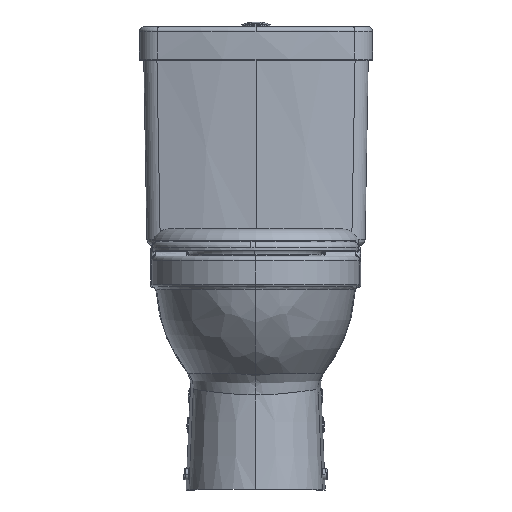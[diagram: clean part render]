
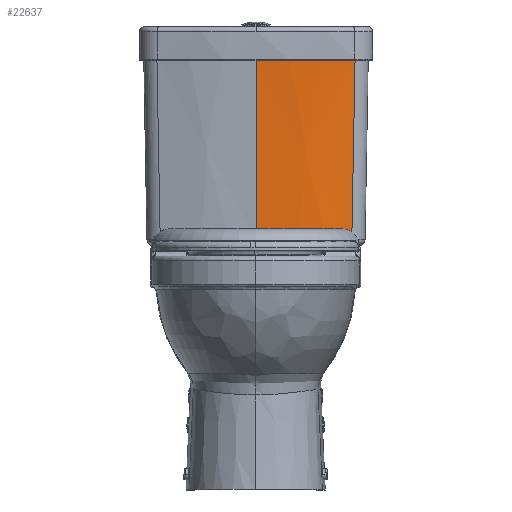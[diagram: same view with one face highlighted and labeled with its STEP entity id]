
A CAD part, top view. The second image highlights one B-rep face of the part: STEP entity #22637.
In plain terms, the highlighted conical face has half-angle 1 degrees and reference radius 640.463 mm.
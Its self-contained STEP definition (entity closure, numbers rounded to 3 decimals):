
#5248 = CARTESIAN_POINT ( 'NONE',  ( 162.378, 28.825, 151.359 ) ) ;
#7873 = DIRECTION ( 'NONE',  ( 0., 0., 1. ) ) ;
#13338 = CARTESIAN_POINT ( 'NONE',  ( 0.629, 19., 171.943 ) ) ;
#14301 = VECTOR ( 'NONE', #232966, 1000. ) ;
#22637 = ADVANCED_FACE ( 'NONE', ( #255946 ), #220547, .T. ) ;
#27868 = CARTESIAN_POINT ( 'NONE',  ( 0.629, 332.965, 177.423 ) ) ;
#31457 = CARTESIAN_POINT ( 'NONE',  ( 166.001, 229.072, 154.02 ) ) ;
#48844 = CARTESIAN_POINT ( 'NONE',  ( 162.955, 60.679, 151.783 ) ) ;
#50386 = VERTEX_POINT ( 'NONE', #64542 ) ;
#64542 = CARTESIAN_POINT ( 'NONE',  ( 0.629, 28.825, 172.114 ) ) ;
#66322 = EDGE_CURVE ( 'NONE', #50386, #172262, #166441, .T. ) ;
#75778 = B_SPLINE_CURVE_WITH_KNOTS ( 'NONE', 3,
 ( #251100, #161528, #204923, #48844, #245399, #31457, #228002, #138406, #96466 ),
 .UNSPECIFIED., .F., .F.,
 ( 4, 2, 1, 2, 4 ),
 ( 0.334, 0.344, 0.375, 0.5, 0.524 ),
 .UNSPECIFIED. ) ;
#78010 = ORIENTED_EDGE ( 'NONE', *, *, #250612, .F. ) ;
#79842 = CIRCLE ( 'NONE', #209207, 645.979 ) ;
#82135 = AXIS2_PLACEMENT_3D ( 'NONE', #164958, #189513, #141829 ) ;
#82408 = VERTEX_POINT ( 'NONE', #145658 ) ;
#93490 = CARTESIAN_POINT ( 'NONE',  ( 0.629, 231.585, 175.654 ) ) ;
#96466 = CARTESIAN_POINT ( 'NONE',  ( 167.917, 335., 155.422 ) ) ;
#97133 = EDGE_LOOP ( 'NONE', ( #103912, #198261, #78010, #237567, #263841 ) ) ;
#100161 = CARTESIAN_POINT ( 'NONE',  ( 167.917, 335., 155.422 ) ) ;
#103912 = ORIENTED_EDGE ( 'NONE', *, *, #211694, .F. ) ;
#112449 = CARTESIAN_POINT ( 'NONE',  ( 136.008, 28.825, 158.24 ) ) ;
#119447 = CARTESIAN_POINT ( 'NONE',  ( 0.629, 28.825, 172.114 ) ) ;
#133376 = EDGE_CURVE ( 'NONE', #139531, #82408, #238649, .T. ) ;
#135090 = DIRECTION ( 'NONE',  ( 0., 1., 0. ) ) ;
#138406 = CARTESIAN_POINT ( 'NONE',  ( 167.685, 322.143, 155.252 ) ) ;
#139531 = VERTEX_POINT ( 'NONE', #27868 ) ;
#141829 = DIRECTION ( 'NONE',  ( 0., 0., 1. ) ) ;
#145658 = CARTESIAN_POINT ( 'NONE',  ( 0.629, 335., 177.459 ) ) ;
#157260 = CARTESIAN_POINT ( 'NONE',  ( 109.198, 28.825, 163.436 ) ) ;
#161528 = CARTESIAN_POINT ( 'NONE',  ( 162.469, 33.83, 151.425 ) ) ;
#164958 = CARTESIAN_POINT ( 'NONE',  ( 0.629, 19., -468.52 ) ) ;
#166441 = B_SPLINE_CURVE_WITH_KNOTS ( 'NONE', 3,
 ( #215221, #194990, #241134, #157260, #112449, #268497 ),
 .UNSPECIFIED., .F., .F.,
 ( 4, 2, 4 ),
 ( 0., 0.5, 1. ),
 .UNSPECIFIED. ) ;
#170838 = EDGE_CURVE ( 'NONE', #172262, #203947, #75778, .T. ) ;
#172262 = VERTEX_POINT ( 'NONE', #5248 ) ;
#181665 = CARTESIAN_POINT ( 'NONE',  ( 0.629, 332.965, 177.423 ) ) ;
#189513 = DIRECTION ( 'NONE',  ( 0., 1., 0. ) ) ;
#194990 = CARTESIAN_POINT ( 'NONE',  ( 27.882, 28.825, 172.114 ) ) ;
#198261 = ORIENTED_EDGE ( 'NONE', *, *, #133376, .F. ) ;
#203947 = VERTEX_POINT ( 'NONE', #100161 ) ;
#204923 = CARTESIAN_POINT ( 'NONE',  ( 162.56, 38.835, 151.492 ) ) ;
#209207 = AXIS2_PLACEMENT_3D ( 'NONE', #247740, #135090, #7873 ) ;
#210489 = CARTESIAN_POINT ( 'NONE',  ( 0.629, 130.205, 173.884 ) ) ;
#211694 = EDGE_CURVE ( 'NONE', #82408, #203947, #79842, .T. ) ;
#215221 = CARTESIAN_POINT ( 'NONE',  ( 0.629, 28.825, 172.114 ) ) ;
#220547 = CONICAL_SURFACE ( 'NONE', #82135, 640.463, 0.017 ) ;
#228002 = CARTESIAN_POINT ( 'NONE',  ( 167.452, 309.286, 155.082 ) ) ;
#232966 = DIRECTION ( 'NONE',  ( 0., 1., 0.017 ) ) ;
#237567 = ORIENTED_EDGE ( 'NONE', *, *, #66322, .T. ) ;
#238649 = LINE ( 'NONE', #13338, #14301 ) ;
#241134 = CARTESIAN_POINT ( 'NONE',  ( 55.135, 28.825, 170.373 ) ) ;
#245399 = CARTESIAN_POINT ( 'NONE',  ( 164.478, 144.875, 152.903 ) ) ;
#247740 = CARTESIAN_POINT ( 'NONE',  ( 0.629, 335., -468.52 ) ) ;
#250612 = EDGE_CURVE ( 'NONE', #50386, #139531, #272123, .T. ) ;
#251100 = CARTESIAN_POINT ( 'NONE',  ( 162.378, 28.825, 151.359 ) ) ;
#255946 = FACE_OUTER_BOUND ( 'NONE', #97133, .T. ) ;
#263841 = ORIENTED_EDGE ( 'NONE', *, *, #170838, .T. ) ;
#268497 = CARTESIAN_POINT ( 'NONE',  ( 162.378, 28.825, 151.359 ) ) ;
#272123 = B_SPLINE_CURVE_WITH_KNOTS ( 'NONE', 3,
 ( #119447, #210489, #93490, #181665 ),
 .UNSPECIFIED., .F., .F.,
 ( 4, 4 ),
 ( 0., 1. ),
 .UNSPECIFIED. ) ;
